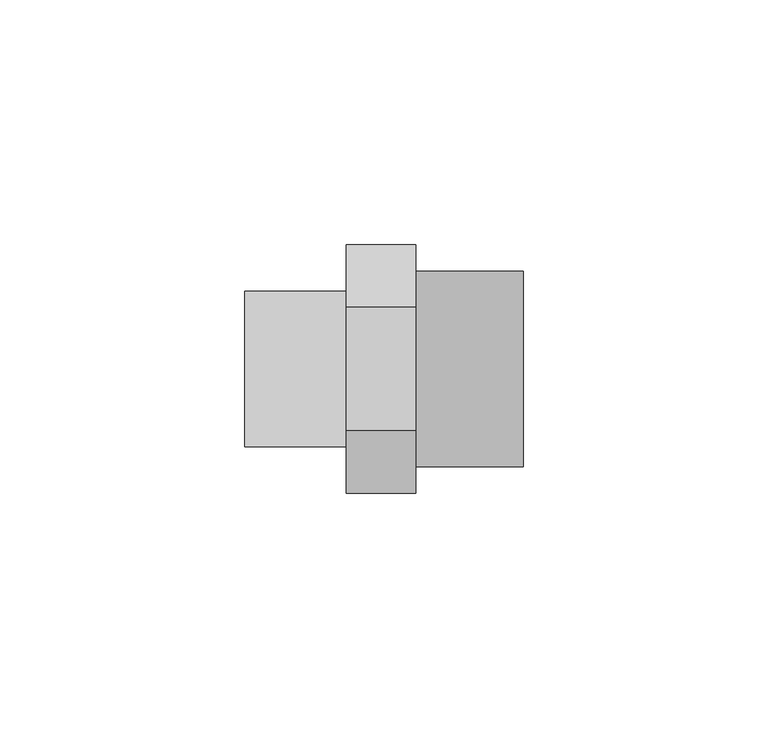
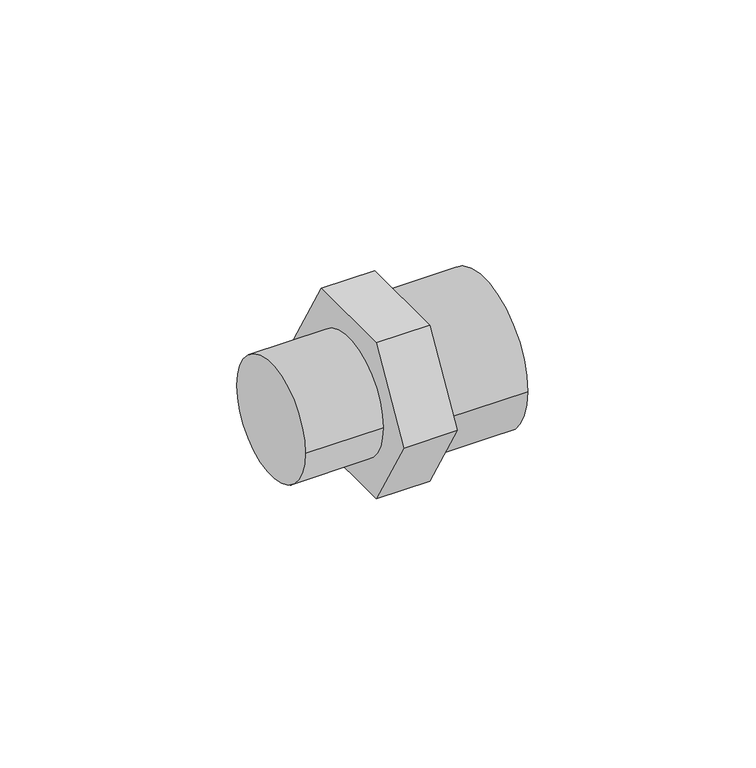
"""IFC4 building model written with IfcOpenShell, lengths in millimetres: pipe fitting geometry, 01101081 : Mamelons de réduction multiple FxMxM."""

from ifc_helpers import new_model, si_unit, point, frame, origin, origin_2d, place, context, project, spatial, polyline, circle_curve, trimmed, segment, composite_curve, outline, extrude, source, transform, mapped, element, save


def pipe_fitting_297cb0ae(model_context):
    return source(origin(), model_context, "Body", "SweptSolid", [
        extrude(outline(composite_curve([segment(trimmed(circle_curve(origin_2d(), 15.875), [point((15.875, 0.0))], [point((-15.875, 0.0))], False, "CARTESIAN"), True, "CONTINUOUS"), segment(trimmed(circle_curve(origin_2d(), 15.875), [point((-15.875, 0.0))], [point((15.875, 0.0))], False, "CARTESIAN"), True, "CONTINUOUS")], self_intersect=False)), frame((0.0, 0.0, 0.0), z_axis=(1.0, 0.0, 0.0), x_axis=(0.0, 1.0, 0.0)), (0.0, 0.0, 1.0), 20.75),
        extrude(outline(polyline([(-12.7017059, 22.0), (12.7017059, 22.0), (25.4034118, 0.0), (12.7017059, -22.0), (-12.7017059, -22.0), (-25.4034118, 0.0), (-12.7017059, 22.0)])), frame((20.75, 0.0, 0.0), z_axis=(1.0, 0.0, 0.0), x_axis=(0.0, 1.0, 0.0)), (0.0, 0.0, 1.0), 14.25),
        extrude(outline(composite_curve([segment(trimmed(circle_curve(origin_2d(), 20.0), [point((-20.0, 0.0))], [point((20.0, 0.0))], False, "CARTESIAN"), True, "CONTINUOUS"), segment(trimmed(circle_curve(origin_2d(), 20.0), [point((20.0, 0.0))], [point((-20.0, 0.0))], False, "CARTESIAN"), True, "CONTINUOUS")], self_intersect=False)), frame((35.0, 0.0, 0.0), z_axis=(1.0, 0.0, 0.0), x_axis=(0.0, 1.0, 0.0)), (0.0, 0.0, 1.0), 22.0),
    ])


if __name__ == "__main__":
    model = new_model("IFC4")
    model_context = context("Model", 3, world=origin())
    ifc_project = project(units=[si_unit("LENGTHUNIT", "METRE", prefix="MILLI")], contexts=[model_context])
    site = spatial("IfcSite", under=ifc_project)
    building = spatial("IfcBuilding", under=site)
    placement = place(None, origin())
    pipe_fitting_shape = pipe_fitting_297cb0ae(model_context)
    element("IfcPipeFitting", 1, ObjectType="01101081 : Mamelons de réduction multiple FxMxM", at=placement, inside=building, context=model_context, shape_type="MappedRepresentation", body=[
        mapped(pipe_fitting_shape, transform((0.0, 0.0, 0.0), x_axis=(1.0, 0.0, 0.0), y_axis=(0.0, 1.0, 0.0), z_axis=(0.0, 0.0, 1.0))),
    ])
    save(model, "model.ifc")
